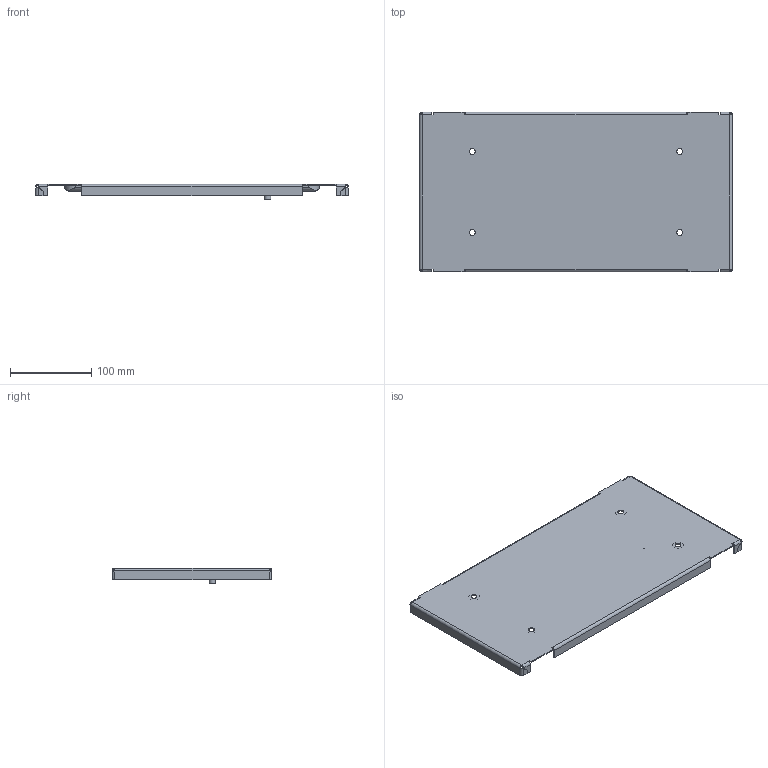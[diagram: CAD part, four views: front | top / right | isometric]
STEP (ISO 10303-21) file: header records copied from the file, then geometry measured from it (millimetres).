
FILE_DESCRIPTION(('STEP AP203'), '1');
FILE_NAME('Ïàíåëü ëèöåâàÿ ãëóõàÿ 200õ400 ìì OptiBox M 419472 ÊÝÀÇ', '', ('UNSPECIFIED'), ('UNSPECIFIED'), 'C3D Converter', 'C3D Toolkit', '');
FILE_SCHEMA(('CONFIG_CONTROL_DESIGN'));
Length unit declared in the file: millimetre
Bounding box: 386.4 x 197 x 18.9 mm (x, y, z)
Volume: 189700 mm3; surface area: 208784.4 mm2
Topology: 3 solids, 3 shells, 168 faces, 385 edges, 230 vertices
Faces by surface type: plane 109, cylinder 51, bspline 8
Full cylindrical faces by diameter (mm): 0.75 x1, 1 x1, 5 x2, 7.3 x4, 8 x1, 9.3 x1, 13 x1, 13.5 x4
Entity records: 5740 total; most frequent: CARTESIAN_POINT 2005, ORIENTED_EDGE 740, DIRECTION 726, EDGE_CURVE 370, LINE 264, VECTOR 264, AXIS2_PLACEMENT_3D 231, VERTEX_POINT 230
